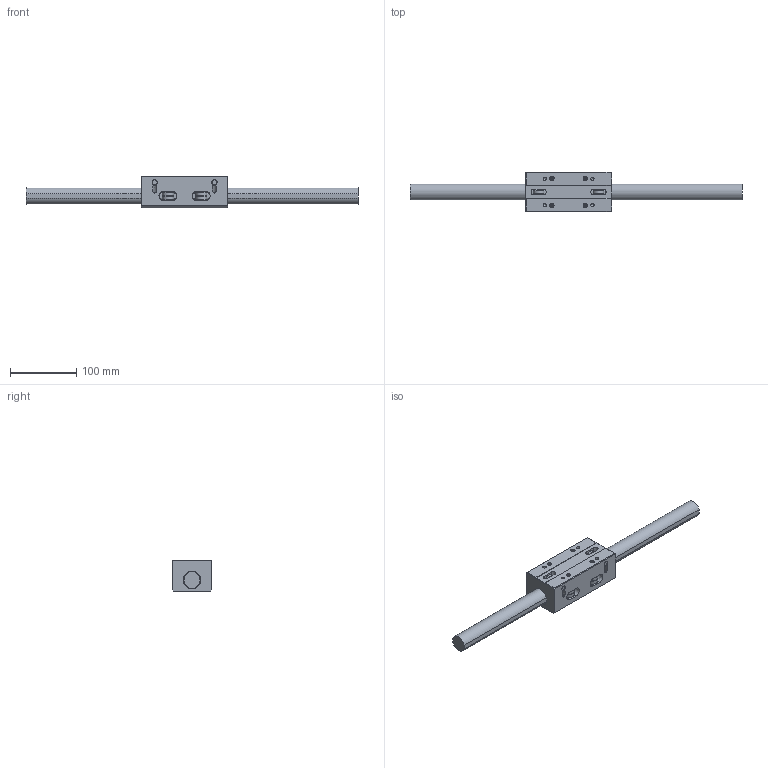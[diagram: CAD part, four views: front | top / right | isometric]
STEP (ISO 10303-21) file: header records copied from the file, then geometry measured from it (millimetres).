
FILE_DESCRIPTION((''),'2;1');
FILE_NAME('D:\製品 (図面)\カタログ用3D\リニアガイド関連\STEP形式\LTW\LTW25.stp','2010-06-02T16:52:54',('Tsuchiya'),(''),'Autodesk Inventor 10','Autodesk Inventor 10','');
FILE_SCHEMA(('AUTOMOTIVE_DESIGN { 1 0 10303 214 1 1 1 1 }'));
Length unit declared in the file: millimetre
Products named in the file (3): LTW25; LTW251; LTW252
Assembly tree (2 placements, depth 2):
  LTW25
    LTW251
    LTW252
Bounding box: 500 x 60 x 48 mm (x, y, z)
Volume: 513566.7 mm3; surface area: 99265.4 mm2
Topology: 2 solids, 2 shells, 297 faces, 695 edges, 448 vertices
Faces by surface type: bspline 136, plane 86, cylinder 44, cone 26, torus 5
Full cylindrical faces by diameter (mm): 4.917 x2, 5 x5, 5.5 x5, 6.5 x5, 8 x8, 16 x3, 17 x4, 18 x2, 27 x1
Entity records: 9199 total; most frequent: CARTESIAN_POINT 3661, ORIENTED_EDGE 1016, DIRECTION 966, EDGE_LOOP 510, EDGE_CURVE 508, VERTEX_POINT 394, AXIS2_PLACEMENT_3D 370, FACE_OUTER_BOUND 297
